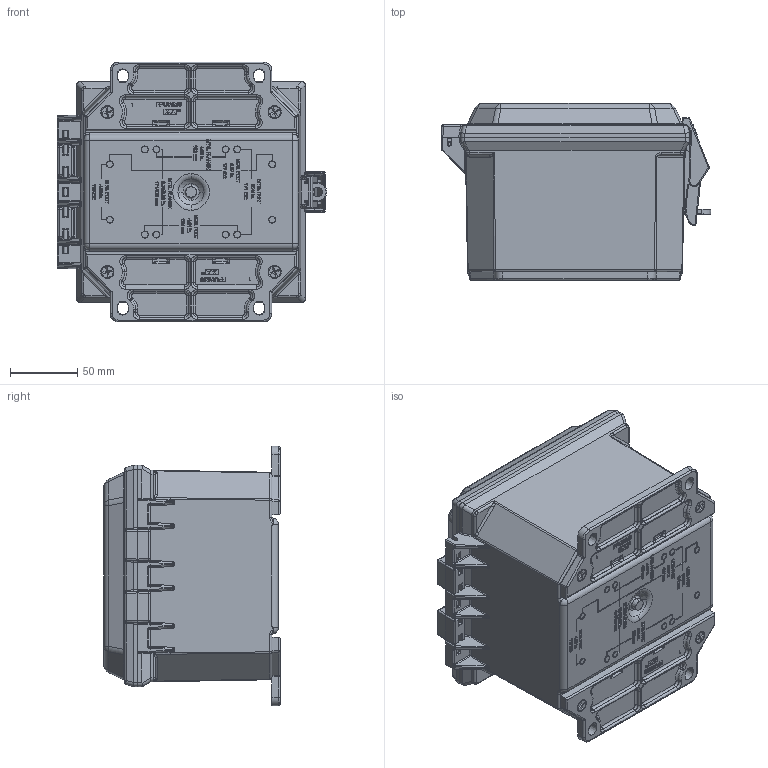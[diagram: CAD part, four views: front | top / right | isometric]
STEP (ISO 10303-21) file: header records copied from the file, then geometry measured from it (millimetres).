
FILE_DESCRIPTION (( 'STEP AP203' ), '1' );
FILE_NAME ('PCJ664CCNLF.step', '2014-06-26T14:20:17', ( '' ), ( '' ), 'SwSTEP 2.0', 'SolidWorks 2014', '' );
FILE_SCHEMA (( 'CONFIG_CONTROL_DESIGN' ));
Length unit declared in the file: inch
Products named in the file (14): 70-60820PC-1; PCJ664CCNLF; 55-1032516_PreviewCfg; 55-103212316; 2423001; 2777001; 2769001_box; 2776001; 2405001_part; 2775001; 70-HPIN6316; LLPN_INSTALLED POSITION; 70-60250; AMP664CCNLF
Assembly tree (27 placements, depth 4):
  PCJ664CCNLF
    AMP664CCNLF
      2769001_box
      2405001_part
      70-HPIN6316
      70-60250  x8
      70-60820PC-1
      55-1032516_PreviewCfg  x4
      55-103212316  x4
      2423001  x2
      LLPN_INSTALLED POSITION
        2777001
        2776001
        2775001
Bounding box: 200.77 x 131.77 x 193.79 mm (x, y, z)
Volume: 662460.7 mm3; surface area: 367429.2 mm2
Topology: 25 solids, 26 shells, 5669 faces, 14435 edges, 9098 vertices
Faces by surface type: plane 2704, bspline 1238, cylinder 1064, cone 328, torus 220, sphere 115
Entity records: 199570 total; most frequent: CARTESIAN_POINT 88191, ORIENTED_EDGE 24804, DIRECTION 19171, EDGE_CURVE 12402, VERTEX_POINT 7889, VECTOR 7779, LINE 7779, AXIS2_PLACEMENT_3D 5696
